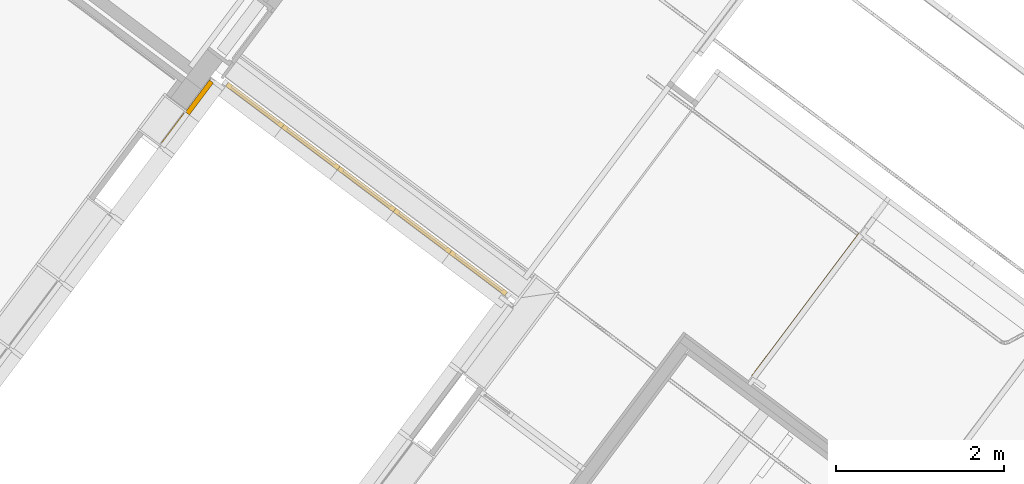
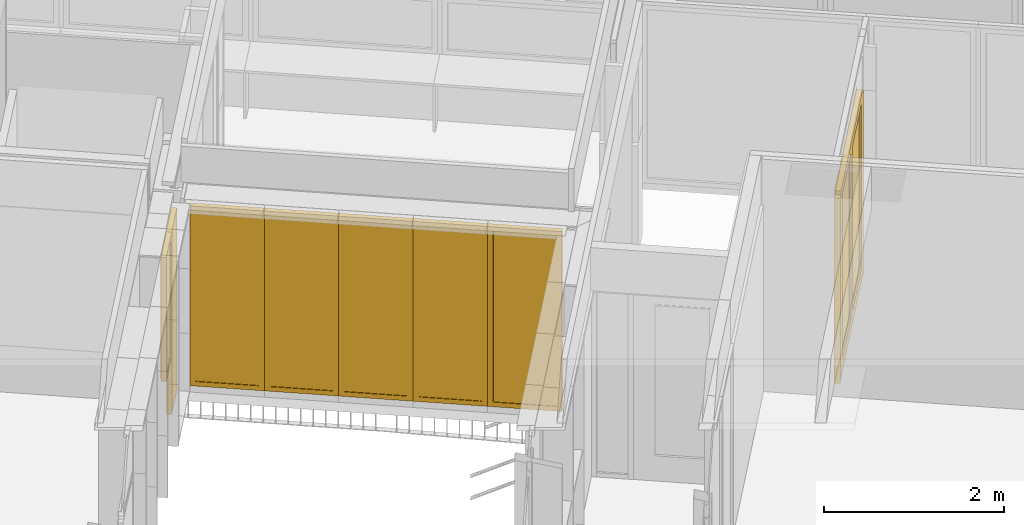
# One storey, part 210 of 243: 6 windows, 2 doors, 3 elements without a shape of their own.
"""IFC2X3 building model written with IfcOpenShell, lengths in metres."""

import ifcopenshell
import ifcopenshell.guid

model = None  # the IFC model being written
_history = None  # IfcOwnerHistory: only IFC2X3 demands one
_inside = {}  # id of a spatial element -> (the spatial element, [elements in it])
_under = {}  # id of a project, library or spatial element -> (it, [spatial elements below it])
_declared = {}  # id of a project -> (the project, [libraries it declares])
_typed = {}  # id of a type object -> (the type object, [elements of that type])
_made_of = {}  # id of a material, layer set ... -> (it, [elements and type objects made of it])


def new_model(schema):
    """Start an empty IFC model of exactly this schema.

    Asked for "IFC4X3", IfcOpenShell would pick the latest addendum, in which some entities
    have other attributes; the version numbers below select the first issue.
    IFC2X3 requires an IfcOwnerHistory on every rooted entity: one is made here for all.
    """
    global model, _history
    if schema == "IFC4X3":
        model = ifcopenshell.file(schema_version=(4, 3, 0, 0))
    else:
        model = ifcopenshell.file(schema=schema)
    _inside.clear()
    _under.clear()
    _declared.clear()
    _typed.clear()
    _made_of.clear()
    _history = None
    if model.schema == "IFC2X3":
        org = make("IfcOrganization", Name="unknown")
        user = make(
            "IfcPersonAndOrganization",
            ThePerson=make("IfcPerson", FamilyName="unknown"),
            TheOrganization=org,
        )
        app = make(
            "IfcApplication",
            ApplicationDeveloper=org,
            Version="unknown",
            ApplicationFullName="unknown",
            ApplicationIdentifier="unknown",
        )
        _history = make(
            "IfcOwnerHistory",
            OwningUser=user,
            OwningApplication=app,
            ChangeAction="ADDED",
            CreationDate=0,
        )
    return model


def make(cls, **values):
    """One entity of the class cls with the attributes given. An attribute that is None is left unset."""
    return model.create_entity(
        cls, **{name: value for name, value in values.items() if value is not None}
    )


def entity(cls, *values):
    """Any entity or typed value of the class cls, its attributes in the order of the schema. None: left unset."""
    e = model.create_entity(cls)
    for i, value in enumerate(values):
        if value is not None:
            e[i] = value
    return e


def rooted(cls, **values):
    """An entity with a GlobalId (a new one), such as an element, a storey or a relation."""
    return make(cls, GlobalId=ifcopenshell.guid.new(), OwnerHistory=_history, **values)


def si_unit(unit_type, name, prefix=None):
    """IfcSIUnit, for example si_unit("LENGTHUNIT", "METRE", prefix="MILLI")."""
    return make("IfcSIUnit", UnitType=unit_type, Prefix=prefix, Name=name)


def converted_unit(unit_type, name, factor, base, dimensions=None, offset=None):
    """IfcConversionBasedUnit, such as the inch: factor (a typed value) times the base unit."""
    return make(
        "IfcConversionBasedUnit"
        if offset is None
        else "IfcConversionBasedUnitWithOffset",
        ConversionOffset=offset,
        Dimensions=None
        if dimensions is None
        else entity("IfcDimensionalExponents", *dimensions),
        UnitType=unit_type,
        Name=name,
        ConversionFactor=make(
            "IfcMeasureWithUnit", ValueComponent=factor, UnitComponent=base
        ),
    )


def derived_unit(unit_type, elements):
    """IfcDerivedUnit: a product of units, each with its exponent."""
    return make(
        "IfcDerivedUnit",
        Elements=[
            make("IfcDerivedUnitElement", Unit=unit, Exponent=power)
            for unit, power in elements
        ],
        UnitType=unit_type,
    )


def assignment(units):
    """IfcUnitAssignment: the units of a project."""
    return None if units is None else make("IfcUnitAssignment", Units=units)


def point(xyz):
    """IfcCartesianPoint."""
    return None if xyz is None else make("IfcCartesianPoint", Coordinates=xyz)


def direction(xyz):
    """IfcDirection."""
    return None if xyz is None else make("IfcDirection", DirectionRatios=xyz)


def frame(location, z_axis=None, x_axis=None):
    """IfcAxis2Placement3D, a coordinate frame: its origin and axes. An axis left out is left unset."""
    return make(
        "IfcAxis2Placement3D",
        Location=point(location),
        Axis=direction(z_axis),
        RefDirection=direction(x_axis),
    )


def frame_2d(location, x_axis=None):
    """IfcAxis2Placement2D, a coordinate frame in the plane: its origin and x axis."""
    return make(
        "IfcAxis2Placement2D", Location=point(location), RefDirection=direction(x_axis)
    )


def origin():
    """The frame at (0, 0, 0) with its axes left unset."""
    return frame((0.0, 0.0, 0.0))


def origin_2d_with_axis():
    """The frame at (0, 0) in the plane with the x axis (1, 0) written out."""
    return frame_2d((0.0, 0.0), x_axis=(1.0, 0.0))


def place(relative_to, where):
    """IfcLocalPlacement: puts the frame where relative to a parent placement (None: the world)."""
    return make(
        "IfcLocalPlacement", PlacementRelTo=relative_to, RelativePlacement=where
    )


def context(
    kind, dimensions, precision=None, world=None, true_north=None, identifier=None
):
    """IfcGeometricRepresentationContext, for example the 3D "Model" context."""
    return make(
        "IfcGeometricRepresentationContext",
        ContextIdentifier=identifier,
        ContextType=kind,
        CoordinateSpaceDimension=dimensions,
        Precision=precision,
        WorldCoordinateSystem=world,
        TrueNorth=true_north,
    )


def subcontext(parent, identifier, kind, view, scale=None):
    """IfcGeometricRepresentationSubContext, for example "Body" below "Model"."""
    return make(
        "IfcGeometricRepresentationSubContext",
        ContextIdentifier=identifier,
        ContextType=kind,
        ParentContext=parent,
        TargetScale=scale,
        TargetView=view,
    )


def project(units=None, contexts=None):
    """IfcProject with its units and contexts."""
    return rooted(
        "IfcProject",
        Name="project",
        RepresentationContexts=contexts,
        UnitsInContext=assignment(units),
    )


def spatial(cls, under=None, at=None, **own):
    """A site, building, storey or space (cls), placed at a placement, below another one or the project."""
    s = rooted(cls, ObjectPlacement=at, **own)
    if under is not None:
        _under.setdefault(under.id(), (under, []))[1].append(s)
    return s


def profile(cls, at=None, kind="AREA", **sizes):
    """A parametric profile (cls). Its sizes go by their IFC names, for example OverallWidth=200.0."""
    return make(cls, ProfileType=kind, Position=at, **sizes)


def rectangle(**sizes):
    """IfcRectangleProfileDef."""
    return profile("IfcRectangleProfileDef", **sizes)


def extrude(swept, where, along, depth):
    """IfcExtrudedAreaSolid: the profile swept, set in the frame where, extruded along a direction by depth."""
    return make(
        "IfcExtrudedAreaSolid",
        SweptArea=swept,
        Position=where,
        ExtrudedDirection=direction(along),
        Depth=depth,
    )


def faces_of(points, faces, orient=None, outer=None):
    """IfcFace entities. A face is a list of loops; a loop is a list of indices into points, from 0.

    orient and outer hold one flag for each loop. By default every Orientation is true, the
    first loop of a face is its IfcFaceOuterBound and the others are IfcFaceBound.
    """
    made = []
    for i, loops in enumerate(faces):
        bounds = []
        for j, loop in enumerate(loops):
            is_outer = j == 0 if outer is None else outer[i][j]
            bounds.append(
                make(
                    "IfcFaceOuterBound" if is_outer else "IfcFaceBound",
                    Bound=make("IfcPolyLoop", Polygon=[points[k] for k in loop]),
                    Orientation=True if orient is None else orient[i][j],
                )
            )
        made.append(make("IfcFace", Bounds=bounds))
    return made


def faceted_brep(points, faces, orient=None, outer=None, voids=None):
    """IfcFacetedBrep: a solid bounded by flat faces; with voids (closed shells), ...WithVoids."""
    shared = [point(p) for p in points]
    hull = make("IfcClosedShell", CfsFaces=faces_of(shared, faces, orient, outer))
    if voids is None:
        return make("IfcFacetedBrep", Outer=hull)
    return make(
        "IfcFacetedBrepWithVoids",
        Outer=hull,
        Voids=[
            make(cls, CfsFaces=faces_of(shared, fs, o, b)) for cls, fs, o, b in voids
        ],
    )


def shape(context_of_items, identifier, shape_type, items):
    """IfcShapeRepresentation: the items that make up one representation, for example the "Body"."""
    return make(
        "IfcShapeRepresentation",
        ContextOfItems=context_of_items,
        RepresentationIdentifier=identifier,
        RepresentationType=shape_type,
        Items=items,
    )


def source(mapping_origin, context_of_items, identifier, shape_type, items):
    """IfcRepresentationMap: a shape defined once, which mapped items show again and again."""
    return make(
        "IfcRepresentationMap",
        MappingOrigin=mapping_origin,
        MappedRepresentation=shape(context_of_items, identifier, shape_type, items),
    )


def transform(
    local_origin,
    x_axis=None,
    y_axis=None,
    z_axis=None,
    scale=None,
    scale2=None,
    scale3=None,
    uniform=True,
):
    """IfcCartesianTransformationOperator3D, or its non-uniform kind. x_axis, y_axis, z_axis: its Axis1, 2, 3."""
    if uniform:
        return make(
            "IfcCartesianTransformationOperator3D",
            Axis1=direction(x_axis),
            Axis2=direction(y_axis),
            LocalOrigin=point(local_origin),
            Scale=scale,
            Axis3=direction(z_axis),
        )
    return make(
        "IfcCartesianTransformationOperator3DnonUniform",
        Axis1=direction(x_axis),
        Axis2=direction(y_axis),
        LocalOrigin=point(local_origin),
        Scale=scale,
        Axis3=direction(z_axis),
        Scale2=scale2,
        Scale3=scale3,
    )


def mapped(mapping_source, mapping_target):
    """IfcMappedItem: shows the shape of a source again, moved by a transform."""
    return make(
        "IfcMappedItem", MappingSource=mapping_source, MappingTarget=mapping_target
    )


def material(Name=None, Category=None):
    """IfcMaterial."""
    return make("IfcMaterial", Name=Name, Category=Category)


def material_list(materials):
    """IfcMaterialList."""
    return make("IfcMaterialList", Materials=materials)


def made_of(thing, what):
    """Note that an element or type object is made of a material, layer set ...; save() writes the relation."""
    if what is not None:
        _made_of.setdefault(what.id(), (what, []))[1].append(thing)
    return thing


def type_object(cls, material=None, **own):
    """A type object (cls), such as IfcWallType, which elements share."""
    return made_of(rooted(cls, **own), material)


def type_shapes(of_type, sources):
    """Give a type object the sources (RepresentationMaps) that its elements show as mapped items."""
    of_type.RepresentationMaps = sources


def element(
    cls,
    number,
    at=None,
    inside=None,
    cuts=None,
    type_object=None,
    material=None,
    context=None,
    identifier="Body",
    shape_type=None,
    held_by="IfcProductDefinitionShape",
    body=None,
    shapes=None,
    **own,
):
    """One element of the class cls, such as IfcWall. Its Tag is "e" and its number.

    at: its placement. inside: the storey or other place that contains it. cuts: it is an
    opening in that element (IfcRelVoidsElement). A single representation is given by context,
    identifier, shape_type and body (its items); several are given by shapes. held_by: the class
    of the entity that holds the representations. save() writes the other relations.
    """
    e = rooted(cls, Tag="e%d" % number, ObjectPlacement=at, **own)
    if body is not None:
        shapes = [shape(context, identifier, shape_type, body)]
    if shapes is not None:
        e.Representation = make(held_by, Representations=shapes)
    if inside is not None:
        _inside.setdefault(inside.id(), (inside, []))[1].append(e)
    if cuts is not None:
        rooted(
            "IfcRelVoidsElement", RelatingBuildingElement=cuts, RelatedOpeningElement=e
        )
    if type_object is not None:
        _typed.setdefault(type_object.id(), (type_object, []))[1].append(e)
    return made_of(e, material)


def aggregate(whole, parts):
    """IfcRelAggregates: a whole, such as a stair, and the parts it consists of."""
    return rooted("IfcRelAggregates", RelatingObject=whole, RelatedObjects=parts)


def save(model, path):
    """Write the relations noted so far, then the file.

    IfcRelAggregates (storeys below a building ...), IfcRelContainedInSpatialStructure (elements
    in a storey), IfcRelDefinesByType, IfcRelAssociatesMaterial and IfcRelDeclares: one each for
    every whole, place, type object, material and project.
    """
    for whole, parts in _under.values():
        aggregate(whole, parts)
    for where, things in _inside.values():
        rooted(
            "IfcRelContainedInSpatialStructure",
            RelatedElements=things,
            RelatingStructure=where,
        )
    for kind, things in _typed.values():
        rooted("IfcRelDefinesByType", RelatedObjects=things, RelatingType=kind)
    for what, things in _made_of.values():
        rooted("IfcRelAssociatesMaterial", RelatedObjects=things, RelatingMaterial=what)
    for by, libraries in _declared.values():
        rooted("IfcRelDeclares", RelatingContext=by, RelatedDefinitions=libraries)
    model.write(path)


model = new_model("IFC2X3")

# Units and contexts
model_context = context("Model", 3, precision=1e-05, world=origin(), true_north=direction((6.123031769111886e-17, 1.0)))
body_context = subcontext(model_context, "Body", "Model", "MODEL_VIEW")
ifc_project = project(units=[si_unit("LENGTHUNIT", "METRE"), si_unit("AREAUNIT", "SQUARE_METRE"), si_unit("VOLUMEUNIT", "CUBIC_METRE"), converted_unit("PLANEANGLEUNIT", "DEGREE", entity("IfcRatioMeasure", 0.017453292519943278), si_unit("PLANEANGLEUNIT", "RADIAN"), dimensions=[0, 0, 0, 0, 0, 0, 0]), si_unit("MASSUNIT", "GRAM", prefix="KILO"), derived_unit("MASSDENSITYUNIT", [(si_unit("MASSUNIT", "GRAM", prefix="KILO"), 1), (si_unit("LENGTHUNIT", "METRE"), -3)]), derived_unit("IONCONCENTRATIONUNIT", [(si_unit("MASSUNIT", "GRAM", prefix="KILO"), 1), (si_unit("LENGTHUNIT", "METRE"), -3)]), derived_unit("MOMENTOFINERTIAUNIT", [(si_unit("LENGTHUNIT", "METRE"), 4)]), si_unit("TIMEUNIT", "SECOND"), si_unit("FREQUENCYUNIT", "HERTZ"), si_unit("THERMODYNAMICTEMPERATUREUNIT", "DEGREE_CELSIUS"), derived_unit("THERMALTRANSMITTANCEUNIT", [(si_unit("MASSUNIT", "GRAM", prefix="KILO"), 1), (si_unit("THERMODYNAMICTEMPERATUREUNIT", "KELVIN"), -1), (si_unit("TIMEUNIT", "SECOND"), -3)]), derived_unit("THERMALCONDUCTANCEUNIT", [(si_unit("MASSUNIT", "GRAM", prefix="KILO"), 1), (si_unit("THERMODYNAMICTEMPERATUREUNIT", "KELVIN"), -1), (si_unit("TIMEUNIT", "SECOND"), -3), (si_unit("LENGTHUNIT", "METRE"), 1)]), derived_unit("VOLUMETRICFLOWRATEUNIT", [(si_unit("LENGTHUNIT", "METRE"), 3), (si_unit("TIMEUNIT", "SECOND"), -1)]), derived_unit("MASSFLOWRATEUNIT", [(si_unit("MASSUNIT", "GRAM", prefix="KILO"), 1), (si_unit("TIMEUNIT", "SECOND"), -1)]), derived_unit("ROTATIONALFREQUENCYUNIT", [(si_unit("TIMEUNIT", "SECOND"), -1)]), si_unit("ELECTRICCURRENTUNIT", "AMPERE"), si_unit("ELECTRICVOLTAGEUNIT", "VOLT"), si_unit("POWERUNIT", "WATT"), si_unit("FORCEUNIT", "NEWTON", prefix="KILO"), si_unit("ILLUMINANCEUNIT", "LUX"), si_unit("LUMINOUSFLUXUNIT", "LUMEN"), si_unit("LUMINOUSINTENSITYUNIT", "CANDELA"), derived_unit("USERDEFINED", [(si_unit("MASSUNIT", "GRAM", prefix="KILO"), -1), (si_unit("LENGTHUNIT", "METRE"), -2), (si_unit("TIMEUNIT", "SECOND"), 3), (si_unit("LUMINOUSFLUXUNIT", "LUMEN"), 1)]), derived_unit("USERDEFINED", [(si_unit("MASSUNIT", "GRAM", prefix="KILO"), 1), (si_unit("TIMEUNIT", "SECOND"), -3), (si_unit("LENGTHUNIT", "METRE"), 3), (si_unit("ELECTRICCURRENTUNIT", "AMPERE"), -2)]), derived_unit("SOUNDPOWERUNIT", [(si_unit("MASSUNIT", "GRAM", prefix="KILO"), 1), (si_unit("TIMEUNIT", "SECOND"), -3), (si_unit("LENGTHUNIT", "METRE"), 2)]), derived_unit("SOUNDPRESSUREUNIT", [(si_unit("MASSUNIT", "GRAM", prefix="KILO"), 1), (si_unit("LENGTHUNIT", "METRE"), -1), (si_unit("TIMEUNIT", "SECOND"), -2)]), derived_unit("LINEARVELOCITYUNIT", [(si_unit("LENGTHUNIT", "METRE"), 1), (si_unit("TIMEUNIT", "SECOND"), -1)]), si_unit("PRESSUREUNIT", "PASCAL"), derived_unit("USERDEFINED", [(si_unit("MASSUNIT", "GRAM", prefix="KILO"), 1), (si_unit("LENGTHUNIT", "METRE"), -2), (si_unit("TIMEUNIT", "SECOND"), -2)]), derived_unit("LINEARFORCEUNIT", [(si_unit("MASSUNIT", "GRAM", prefix="KILO"), 1), (si_unit("TIMEUNIT", "SECOND"), -2)]), derived_unit("PLANARFORCEUNIT", [(si_unit("MASSUNIT", "GRAM", prefix="KILO"), 1), (si_unit("LENGTHUNIT", "METRE"), -1), (si_unit("TIMEUNIT", "SECOND"), -2)]), derived_unit("SPECIFICHEATCAPACITYUNIT", [(si_unit("THERMODYNAMICTEMPERATUREUNIT", "KELVIN"), -1), (si_unit("LENGTHUNIT", "METRE"), 2), (si_unit("TIMEUNIT", "SECOND"), -2)]), derived_unit("HEATINGVALUEUNIT", [(si_unit("LENGTHUNIT", "METRE"), 2), (si_unit("TIMEUNIT", "SECOND"), -2)]), derived_unit("VAPORPERMEABILITYUNIT", [(si_unit("LENGTHUNIT", "METRE"), -1), (si_unit("TIMEUNIT", "SECOND"), 1)]), derived_unit("DYNAMICVISCOSITYUNIT", [(si_unit("MASSUNIT", "GRAM", prefix="KILO"), 1), (si_unit("TIMEUNIT", "SECOND"), -1), (si_unit("LENGTHUNIT", "METRE"), -1)]), derived_unit("THERMALEXPANSIONCOEFFICIENTUNIT", [(si_unit("THERMODYNAMICTEMPERATUREUNIT", "KELVIN"), -1)]), derived_unit("MODULUSOFELASTICITYUNIT", [(si_unit("MASSUNIT", "GRAM", prefix="KILO"), 1), (si_unit("LENGTHUNIT", "METRE"), -1), (si_unit("TIMEUNIT", "SECOND"), -2)]), derived_unit("ISOTHERMALMOISTURECAPACITYUNIT", [(si_unit("LENGTHUNIT", "METRE"), 3), (si_unit("MASSUNIT", "GRAM", prefix="KILO"), -1)]), derived_unit("MOISTUREDIFFUSIVITYUNIT", [(si_unit("TIMEUNIT", "SECOND"), -1), (si_unit("LENGTHUNIT", "METRE"), 2)])], contexts=[model_context])

# Site, building, storey
site_placement = place(None, frame((0.0, 0.0, 235.0), z_axis=(0.0, 0.0, 1.0), x_axis=(-0.7996477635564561, 0.6004693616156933, 0.0)))
site = spatial("IfcSite", under=ifc_project, at=site_placement, Name="Default", CompositionType="ELEMENT")
building_placement = place(site_placement, origin())
building = spatial("IfcBuilding", under=site, at=building_placement, CompositionType="ELEMENT")
storey_placement = place(building_placement, origin())
storey = spatial("IfcBuildingStorey", under=building, at=storey_placement, Name="P0- Escola", CompositionType="ELEMENT", Elevation=0.0)

# Curtain wall, door, window
curtain_wall_type_1 = type_object("IfcCurtainWallType", Name="Muro cortina:MC- EXT- MC2", PredefinedType="NOTDEFINED")
curtain_wall_1_placement = place(storey_placement, origin())
curtain_wall_1 = element("IfcCurtainWall", 1, at=curtain_wall_1_placement, inside=storey, type_object=curtain_wall_type_1, Name="Muro cortina:MC- EXT- MC2", ObjectType="Muro cortina:MC- EXT- MC2")
ifc_material_1 = material(Name="_Alumini- T1- Perfil")
ifc_material_2 = material(Name="_Aillament")
ifc_material_list_1 = material_list([ifc_material_1, ifc_material_2])
door_style_1 = type_object("IfcDoorStyle", Name="MC- Alu- panell especific xapa:MC- Alu- panell especific xapa", ConstructionType="NOTDEFINED", OperationType="NOTDEFINED", ParameterTakesPrecedence=False, Sizeable=False, material=ifc_material_list_1)
shared_shape_1 = source(origin(), body_context, "Body", "SweptSolid", [
    extrude(rectangle(XDim=0.005999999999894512, YDim=0.47694997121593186, at=origin_2d_with_axis()), frame((0.0, -0.057000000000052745, 0.0), z_axis=(0.0, 0.0, 1.0), x_axis=(0.0, -1.0, 0.0)), (0.0, 0.0, 1.0), 2.471449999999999),
    extrude(rectangle(XDim=0.4769499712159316, YDim=0.048000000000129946, at=origin_2d_with_axis()), frame((0.0, -0.030000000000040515, 0.0)), (0.0, 0.0, 1.0), 2.471449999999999),
    extrude(rectangle(XDim=0.005999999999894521, YDim=0.47694997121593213, at=origin_2d_with_axis()), frame((0.0, -0.003000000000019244, 0.0), z_axis=(0.0, 0.0, 1.0), x_axis=(0.0, -1.0, 0.0)), (0.0, 0.0, 1.0), 2.471449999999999),
])
type_shapes(door_style_1, [shared_shape_1])
door_1_placement = place(curtain_wall_1_placement, frame((41.04514768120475, -36.16166496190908, 0.03229999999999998), z_axis=(0.0, 0.0, 1.0), x_axis=(0.0, 1.0, 0.0)))
door_1 = element("IfcDoor", 2, at=door_1_placement, type_object=door_style_1, material=ifc_material_list_1, Name="MC- Alu- panell especific xapa:MC- Alu- panell especific xapa", ObjectType="MC- Alu- panell especific xapa:MC- Alu- panell especific xapa", OverallHeight=2.471449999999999, OverallWidth=0.47694997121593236, context=body_context, shape_type="MappedRepresentation", body=[
    mapped(shared_shape_1, transform((0.0, 0.0, 0.0), scale=1.0)),
])
ifc_material_3 = material(Name="_Vidre")
ifc_material_list_2 = material_list([ifc_material_3, ifc_material_1])
window_style_1 = type_object("IfcWindowStyle", Name="MC- Alu- Conjunt finestra basculant- 68x68 cm:MC- Alu- Conjunt finestra basculant- 68x68 cm", ConstructionType="NOTDEFINED", OperationType="NOTDEFINED", ParameterTakesPrecedence=False, Sizeable=False, material=ifc_material_list_2)
shared_shape_2 = source(origin(), body_context, "Body", "Brep", [
    faceted_brep([(0.194410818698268, -0.03559830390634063, 0.051999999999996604), (-0.19441081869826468, -0.03559830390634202, 0.051999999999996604), (-0.1944108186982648, -0.011598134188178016, 0.051999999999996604), (0.19441081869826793, -0.011598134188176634, 0.051999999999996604), (0.194410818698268, -0.03559830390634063, 1.631552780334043), (0.19441081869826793, -0.011598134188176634, 1.631552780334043), (-0.19441081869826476, -0.011598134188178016, 1.631552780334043), (-0.19441081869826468, -0.03559830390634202, 1.631552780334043)], [[[0, 1, 2, 3]], [[4, 0, 3, 5]], [[5, 3, 2, 6]], [[6, 2, 1, 7]], [[7, 1, 0, 4]], [[4, 5, 6, 7]]]),
    faceted_brep([(-0.1787099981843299, -0.009998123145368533, 1.6158519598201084), (-0.17870999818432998, -0.009998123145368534, 0.06789804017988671), (-0.17870999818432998, -0.007998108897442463, 0.06789804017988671), (-0.17870999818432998, -0.007998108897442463, 1.6158519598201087), (-0.2076080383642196, -0.007998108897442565, 1.6447499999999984), (0.2076080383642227, -0.00799810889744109, 1.6447499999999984), (0.2076080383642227, -0.00799810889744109, 0.03899999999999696), (-0.2076080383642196, -0.007998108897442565, 0.03899999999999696), (0.17870999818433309, -0.007998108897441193, 1.6158519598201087), (0.17870999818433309, -0.007998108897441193, 0.06789804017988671), (0.17870999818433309, -0.009998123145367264, 0.06789804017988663), (0.17870999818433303, -0.009998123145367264, 1.6158519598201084), (0.1944108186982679, -0.009998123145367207, 1.6315527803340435), (-0.1944108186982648, -0.00999812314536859, 1.6315527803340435), (-0.1944108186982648, -0.00999812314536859, 0.05219721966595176), (0.1944108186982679, -0.009998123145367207, 0.05219721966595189), (-0.1944108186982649, -0.04079986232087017, 1.6315527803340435), (-0.19441081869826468, -0.04079986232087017, 0.05219721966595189), (0.19441081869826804, -0.04079986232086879, 0.05219721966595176), (0.1944108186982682, -0.04079986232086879, 1.6315527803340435), (0.1787099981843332, -0.040799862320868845, 1.6158519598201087), (-0.17870999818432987, -0.040799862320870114, 1.6158519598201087), (-0.17870999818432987, -0.040799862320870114, 0.06789804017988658), (0.1787099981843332, -0.040799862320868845, 0.06789804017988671), (-0.17870999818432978, -0.0680000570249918, 1.6158519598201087), (-0.17870999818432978, -0.0680000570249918, 0.06789804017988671), (0.17870999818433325, -0.06800005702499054, 0.06789804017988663), (0.17870999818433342, -0.06800005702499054, 1.6158519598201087), (0.225112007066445, -0.06800005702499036, 1.6622539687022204), (-0.22511200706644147, -0.06800005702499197, 1.6622539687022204), (-0.22511200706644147, -0.06800005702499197, 0.021496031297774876), (0.225112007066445, -0.06800005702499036, 0.021496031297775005), (-0.22511200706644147, -0.06450003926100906, 1.6622539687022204), (-0.22511200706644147, -0.06450003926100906, 0.021496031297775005), (0.225112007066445, -0.06450003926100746, 0.021496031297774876), (0.225112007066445, -0.06450003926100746, 1.6622539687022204), (0.2076080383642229, -0.06450003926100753, 1.6447499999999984), (-0.2076080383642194, -0.064500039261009, 1.6447499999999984), (-0.2076080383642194, -0.064500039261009, 0.03899999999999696), (0.2076080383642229, -0.06450003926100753, 0.03899999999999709)], [[[0, 1, 2, 3]], [[4, 5, 6, 7], [8, 3, 2, 9]], [[1, 10, 9, 2]], [[0, 11, 10, 1], [12, 13, 14, 15]], [[16, 17, 14, 13]], [[17, 18, 15, 14]], [[16, 19, 18, 17], [20, 21, 22, 23]], [[24, 25, 22, 21]], [[25, 26, 23, 22]], [[24, 27, 26, 25], [28, 29, 30, 31]], [[32, 33, 30, 29]], [[33, 34, 31, 30]], [[32, 35, 34, 33], [36, 37, 38, 39]], [[4, 7, 38, 37]], [[7, 6, 39, 38]], [[10, 11, 8, 9]], [[18, 19, 12, 15]], [[26, 27, 20, 23]], [[34, 35, 28, 31]], [[6, 5, 36, 39]], [[11, 0, 3, 8]], [[19, 16, 13, 12]], [[27, 24, 21, 20]], [[35, 32, 29, 28]], [[5, 4, 37, 36]]], outer=[[True], [True, False], [True], [False, True], [True], [True], [True, False], [True], [True], [False, True], [True], [True], [True, False], [True], [True], [True], [True], [True], [True], [True], [True], [True], [True], [True], [True]]),
    faceted_brep([(0.18369229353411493, 0.0, 1.62094318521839), (0.18369229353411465, 0.0, 0.06280681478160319), (0.18369229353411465, -0.0040000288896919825, 0.06280681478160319), (0.18369229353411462, -0.0040000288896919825, 1.6209431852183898), (-0.1836922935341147, -0.0040000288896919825, 1.6209431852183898), (-0.18369229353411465, -0.0040000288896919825, 0.06280681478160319), (0.21909891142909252, -0.0040000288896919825, 1.6563498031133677), (-0.21909891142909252, -0.0040000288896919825, 1.6563498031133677), (-0.21909891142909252, -0.0040000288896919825, 0.027400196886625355), (0.21909891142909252, -0.0040000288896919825, 0.027400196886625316), (-0.18369229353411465, 0.0, 0.06280681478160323), (-0.18369229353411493, 0.0, 1.62094318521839), (-0.24649910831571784, 0.0, 1.683749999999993), (0.24649910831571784, 0.0, 1.683749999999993), (0.24649910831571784, 0.0, 0.0), (-0.24649910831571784, 0.0, 0.0), (0.24649910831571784, -0.05999999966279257, 1.683749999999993), (0.24649910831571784, -0.05999999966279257, 0.0), (-0.24649910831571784, -0.05999999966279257, 0.0), (-0.24649910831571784, -0.05999999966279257, 1.683749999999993), (-0.2190989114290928, -0.05999999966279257, 1.6563498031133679), (0.2190989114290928, -0.05999999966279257, 1.6563498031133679), (0.2190989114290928, -0.05999999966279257, 0.02740019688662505), (-0.2190989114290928, -0.05999999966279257, 0.027400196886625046)], [[[0, 1, 2, 3]], [[4, 3, 2, 5], [6, 7, 8, 9]], [[1, 10, 5, 2]], [[0, 11, 10, 1], [12, 13, 14, 15]], [[16, 17, 14, 13]], [[17, 18, 15, 14]], [[16, 19, 18, 17], [20, 21, 22, 23]], [[6, 9, 22, 21]], [[9, 8, 23, 22]], [[10, 11, 4, 5]], [[18, 19, 12, 15]], [[8, 7, 20, 23]], [[11, 0, 3, 4]], [[19, 16, 13, 12]], [[7, 6, 21, 20]]], outer=[[True], [False, True], [True], [False, True], [True], [True], [True, False], [True], [True], [True], [True], [True], [True], [True], [True]]),
])
type_shapes(window_style_1, [shared_shape_2])
window_1_placement = place(curtain_wall_1_placement, frame((41.04514768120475, -35.6766908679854, 0.8200000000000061), z_axis=(0.0, 0.0, 1.0), x_axis=(0.0, 1.0, 0.0)))
window_1 = element("IfcWindow", 3, at=window_1_placement, type_object=window_style_1, material=ifc_material_list_2, Name="MC- Alu- Conjunt finestra basculant- 68x68 cm:MC- Alu- Conjunt finestra basculant- 68x68 cm", ObjectType="MC- Alu- Conjunt finestra basculant- 68x68 cm:MC- Alu- Conjunt finestra basculant- 68x68 cm", OverallHeight=1.683749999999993, OverallWidth=0.49299821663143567, context=body_context, shape_type="MappedRepresentation", body=[
    mapped(shared_shape_2, transform((0.0, 0.0, 0.0), scale=1.0)),
])
aggregate(curtain_wall_1, [door_1, window_1])

# Curtain wall, door
curtain_wall_type_2 = type_object("IfcCurtainWallType", PredefinedType="NOTDEFINED")
curtain_wall_2_placement = place(storey_placement, origin())
curtain_wall_2 = element("IfcCurtainWall", 4, at=curtain_wall_2_placement, inside=storey, type_object=curtain_wall_type_2)
ifc_material_list_3 = material_list([ifc_material_1, ifc_material_3])
door_style_2 = type_object("IfcDoorStyle", Name="MC- Alu- Conjunt doble porta- 70x60 cm- +15cm- obertura int:MC- Alu- Conjunt doble porta- 70x60 cm- +15cm- obertura int", ConstructionType="NOTDEFINED", OperationType="NOTDEFINED", ParameterTakesPrecedence=False, Sizeable=False, material=ifc_material_list_3)
shared_shape_3 = source(origin(), body_context, "Body", "Brep", [
    faceted_brep([(-0.9924499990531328, 0.0, 0.02400000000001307), (0.0, 0.0, 0.02400000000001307), (0.0, -0.0656997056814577, 0.02400000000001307), (-0.9924499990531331, -0.06569970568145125, 0.02400000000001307), (-0.992449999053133, -0.06569970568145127, 2.560300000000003), (-0.9924499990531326, 0.0, 2.560300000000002), (0.0, -0.06569970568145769, 2.560300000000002), (0.0, -0.06569970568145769, 0.0), (-1.0164499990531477, -0.06569970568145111, 0.0), (-1.0164499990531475, -0.0656997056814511, 2.5843000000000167), (0.0, -0.06569970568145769, 2.5843000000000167), (0.0, -0.06999970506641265, 2.5843000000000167), (0.0, -0.06999970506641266, 0.0), (0.0, 0.0, 2.560300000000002), (-0.8908499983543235, 0.0, 2.458699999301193), (-0.8908499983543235, 0.0, 0.2036000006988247), (-0.07659999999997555, 0.0, 0.20360000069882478), (-0.07659999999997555, 0.0, 2.458699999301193), (-0.0765999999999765, -0.06449970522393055, 2.458699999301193), (-0.0765999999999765, -0.06449970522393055, 0.20360000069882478), (-0.07659999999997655, -0.06999970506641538, 0.20360000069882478), (-0.07659999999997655, -0.06999970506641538, 2.458699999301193), (-0.8908499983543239, -0.06999970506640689, 0.20360000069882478), (-0.8908499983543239, -0.06999970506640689, 2.458699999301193), (-1.016449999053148, -0.06999970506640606, 2.584300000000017), (-1.016449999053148, -0.06999970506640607, 0.0), (-0.8908499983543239, -0.06449970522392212, 0.2036000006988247), (-0.8908499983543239, -0.06449970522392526, 2.458699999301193), (-0.05159999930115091, -0.0644997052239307, 2.483700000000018), (-0.05159999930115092, -0.0644997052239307, 0.17859999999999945), (-0.9158499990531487, -0.06449970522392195, 0.17859999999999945), (-0.9158499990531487, -0.0644997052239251, 2.483700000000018), (-0.9158499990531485, -0.018999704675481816, 0.17859999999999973), (-0.9158499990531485, -0.018999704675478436, 2.483700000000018), (-0.051599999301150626, -0.018999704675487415, 0.17859999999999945), (-0.05159999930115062, -0.018999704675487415, 2.483700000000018), (-0.07659999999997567, -0.018999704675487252, 2.458699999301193), (-0.07659999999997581, -0.018999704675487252, 0.20360000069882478), (-0.8908499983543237, -0.0189997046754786, 0.20360000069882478), (-0.8908499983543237, -0.0189997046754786, 2.458699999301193)], [[[0, 1, 2, 3]], [[4, 5, 0, 3]], [[6, 4, 3, 2, 7, 8, 9, 10]], [[10, 11, 12, 7, 2, 1, 13, 6]], [[13, 1, 0, 5], [14, 15, 16, 17]], [[18, 19, 20, 21]], [[21, 20, 22, 23], [24, 25, 12, 11]], [[26, 22, 20, 19]], [[27, 26, 19, 18], [28, 29, 30, 31]], [[23, 22, 26, 27]], [[31, 30, 32, 33]], [[34, 32, 30, 29]], [[35, 34, 29, 28]], [[33, 32, 34, 35], [36, 37, 38, 39]], [[39, 38, 15, 14]], [[15, 38, 37, 16]], [[17, 16, 37, 36]], [[8, 7, 12, 25]], [[9, 8, 25, 24]], [[4, 6, 13, 5]], [[10, 9, 24, 11]], [[27, 18, 21, 23]], [[33, 35, 28, 31]], [[14, 17, 36, 39]]], outer=[[True], [True], [True], [True], [True, False], [True], [False, True], [True], [False, True], [True], [True], [True], [True], [True, False], [True], [True], [True], [True], [True], [True], [True], [True], [True], [True]]),
    faceted_brep([(0.9924499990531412, -0.06569970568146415, 0.024000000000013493), (0.0, -0.0656997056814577, 0.024000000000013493), (0.0, 0.0, 0.024000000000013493), (0.9924499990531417, 0.0, 0.024000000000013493), (1.0164499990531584, -0.0656997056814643, 0.0), (0.0, -0.0656997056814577, 0.0), (0.9924499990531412, -0.06569970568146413, 2.5603000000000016), (0.0, -0.0656997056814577, 2.5603000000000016), (0.0, -0.0656997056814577, 2.5843000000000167), (1.0164499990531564, -0.0656997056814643, 2.5843000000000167), (0.9924499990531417, 0.0, 2.5603000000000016), (0.0, 0.0, 2.5603000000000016), (0.07659999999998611, 0.0, 2.458699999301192), (0.07659999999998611, 0.0, 0.20360000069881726), (0.8908499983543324, 0.0, 0.2036000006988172), (0.8908499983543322, 0.0, 2.458699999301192), (0.0, -0.06999970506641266, 0.0), (0.0, -0.06999970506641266, 2.5843000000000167), (0.8908499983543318, -0.06999970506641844, 2.458699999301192), (0.890849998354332, -0.06999970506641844, 0.20360000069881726), (0.07659999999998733, -0.06999970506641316, 0.2036000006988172), (0.07659999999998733, -0.06999970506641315, 2.458699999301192), (1.0164499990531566, -0.06999970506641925, 0.0), (1.0164499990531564, -0.06999970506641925, 2.5843000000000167), (0.8908499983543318, -0.06449970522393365, 2.458699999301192), (0.890849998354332, -0.06449970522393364, 0.20360000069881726), (0.0765999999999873, -0.0644997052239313, 0.2036000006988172), (0.9158499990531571, -0.06449970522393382, 2.4837000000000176), (0.9158499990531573, -0.0644997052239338, 0.17859999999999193), (0.05159999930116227, -0.06449970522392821, 0.17859999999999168), (0.05159999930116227, -0.06449970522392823, 2.483700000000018), (0.0765999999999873, -0.06449970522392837, 2.458699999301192), (0.9158499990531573, -0.01899970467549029, 2.4837000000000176), (0.9158499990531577, -0.01899970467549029, 0.17859999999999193), (0.890849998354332, -0.018999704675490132, 2.458699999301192), (0.8908499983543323, -0.018999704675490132, 0.20360000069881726), (0.07659999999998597, -0.018999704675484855, 0.20360000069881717), (0.07659999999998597, -0.018999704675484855, 2.458699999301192), (0.05159999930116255, -0.01899970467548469, 2.483700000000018), (0.05159999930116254, -0.01899970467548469, 0.17859999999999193)], [[[0, 1, 2, 3]], [[4, 5, 1, 0, 6, 7, 8, 9]], [[3, 10, 6, 0]], [[10, 3, 2, 11], [12, 13, 14, 15]], [[8, 7, 11, 2, 1, 5, 16, 17]], [[18, 19, 20, 21], [16, 22, 23, 17]], [[23, 22, 4, 9]], [[24, 25, 19, 18]], [[19, 25, 26, 20]], [[27, 28, 29, 30], [31, 26, 25, 24]], [[32, 33, 28, 27]], [[34, 35, 36, 37], [38, 39, 33, 32]], [[33, 39, 29, 28]], [[15, 14, 35, 34]], [[35, 14, 13, 36]], [[21, 20, 26, 31]], [[30, 29, 39, 38]], [[37, 36, 13, 12]], [[9, 8, 17, 23]], [[18, 21, 31, 24]], [[27, 30, 38, 32]], [[34, 37, 12, 15]], [[10, 11, 7, 6]], [[5, 4, 22, 16]]], outer=[[True], [True], [True], [True, False], [True], [False, True], [True], [True], [True], [True, False], [True], [False, True], [True], [True], [True], [True], [True], [True], [True], [True], [True], [True], [True], [True]]),
    faceted_brep([(0.0515999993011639, -0.06089980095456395, 0.17859999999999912), (0.051599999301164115, -0.02889980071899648, 0.17859999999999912), (0.9158499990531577, -0.02889980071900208, 0.17859999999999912), (0.9158499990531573, -0.06089980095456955, 0.17859999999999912), (0.0515999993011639, -0.06089980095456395, 2.5087000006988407), (0.9158499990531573, -0.06089980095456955, 2.5087000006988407), (0.9158499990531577, -0.02889980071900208, 2.5087000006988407), (0.051599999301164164, -0.02889980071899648, 2.5087000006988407)], [[[0, 1, 2, 3]], [[4, 0, 3, 5]], [[5, 3, 2, 6]], [[6, 2, 1, 7]], [[7, 1, 0, 4]], [[4, 5, 6, 7]]]),
    faceted_brep([(-0.05159999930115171, -0.06089980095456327, 0.17859999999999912), (-0.9158499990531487, -0.06089980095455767, 0.17859999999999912), (-0.9158499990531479, -0.028899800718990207, 0.17859999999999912), (-0.05159999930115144, -0.028899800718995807, 0.17859999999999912), (-0.0515999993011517, -0.06089980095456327, 2.5087000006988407), (-0.05159999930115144, -0.028899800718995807, 2.5087000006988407), (-0.9158499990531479, -0.028899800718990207, 2.5087000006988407), (-0.9158499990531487, -0.06089980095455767, 2.5087000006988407)], [[[0, 1, 2, 3]], [[4, 0, 3, 5]], [[5, 3, 2, 6]], [[6, 2, 1, 7]], [[7, 1, 0, 4]], [[4, 5, 6, 7]]]),
    faceted_brep([(1.0657499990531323, -0.06999999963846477, 0.0), (1.0244499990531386, -0.0699999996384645, 0.0), (1.0244499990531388, -0.059699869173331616, 0.0), (1.0139499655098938, -0.059699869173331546, 0.0), (1.013949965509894, -0.008800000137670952, 0.0), (0.9984499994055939, -0.00880000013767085, 0.0), (0.998449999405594, 0.0, 0.0), (1.0657499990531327, 0.0, 0.0), (1.0657499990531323, -0.06999999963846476, 2.5050000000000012), (-1.065749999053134, -0.06999999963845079, 2.5050000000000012), (-1.0657499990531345, -0.06999999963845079, 0.0), (-1.0244499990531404, -0.0699999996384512, 0.0), (-1.0244499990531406, -0.06999999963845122, 2.4637000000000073), (1.0244499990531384, -0.06999999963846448, 2.4637000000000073), (1.024449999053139, -0.05969986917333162, 2.4637000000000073), (-1.0244499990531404, -0.05969986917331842, 2.4637000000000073), (-1.0244499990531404, -0.05969986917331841, 0.0), (-1.0139499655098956, -0.05969986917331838, 0.0), (-1.0139499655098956, -0.05969986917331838, 2.4531999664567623), (1.0139499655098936, -0.05969986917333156, 2.4531999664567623), (1.0139499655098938, -0.008800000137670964, 2.4531999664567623), (-1.0139499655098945, -0.008800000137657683, 2.4531999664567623), (-1.013949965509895, -0.008800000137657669, 0.0), (-0.9984499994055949, -0.008800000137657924, 0.0), (-0.9984499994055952, -0.008800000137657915, 2.4377000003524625), (0.9984499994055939, -0.008800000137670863, 2.4377000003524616), (0.9984499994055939, 0.0, 2.4377000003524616), (-0.9984499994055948, 0.0, 2.437700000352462), (-0.9984499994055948, 0.0, 0.0), (-1.0657499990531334, 0.0, 0.0), (-1.0657499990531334, 0.0, 2.505000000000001), (1.0657499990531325, 0.0, 2.5050000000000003)], [[[0, 1, 2, 3, 4, 5, 6, 7]], [[1, 0, 8, 9, 10, 11, 12, 13]], [[2, 1, 13, 14]], [[3, 2, 14, 15, 16, 17, 18, 19]], [[4, 3, 19, 20]], [[5, 4, 20, 21, 22, 23, 24, 25]], [[6, 5, 25, 26]], [[7, 6, 26, 27, 28, 29, 30, 31]], [[0, 7, 31, 8]], [[10, 29, 28, 23, 22, 17, 16, 11]], [[9, 30, 29, 10]], [[27, 24, 23, 28]], [[21, 18, 17, 22]], [[15, 12, 11, 16]], [[8, 31, 30, 9]], [[26, 25, 24, 27]], [[20, 19, 18, 21]], [[14, 13, 12, 15]]]),
])
type_shapes(door_style_2, [shared_shape_3])
door_2_placement = place(curtain_wall_2_placement, frame((33.75114768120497, -38.523191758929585, 0.0), z_axis=(0.0, 0.0, 1.0), x_axis=(0.0, 1.0, 0.0)))
door_2 = element("IfcDoor", 5, at=door_2_placement, type_object=door_style_2, material=ifc_material_list_3, Name="MC- Alu- Conjunt doble porta- 70x60 cm- +15cm- obertura int:MC- Alu- Conjunt doble porta- 70x60 cm- +15cm- obertura int", ObjectType="MC- Alu- Conjunt doble porta- 70x60 cm- +15cm- obertura int:MC- Alu- Conjunt doble porta- 70x60 cm- +15cm- obertura int", OverallHeight=2.58430000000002, OverallWidth=2.1314999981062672, context=body_context, shape_type="MappedRepresentation", body=[
    mapped(shared_shape_3, transform((0.0, 0.0, 0.0), scale=1.0)),
])
aggregate(curtain_wall_2, [door_2])

# Curtain wall, windows
curtain_wall_type_3 = type_object("IfcCurtainWallType", PredefinedType="NOTDEFINED")
curtain_wall_3_placement = place(storey_placement, origin())
curtain_wall_3 = element("IfcCurtainWall", 6, at=curtain_wall_3_placement, inside=storey, type_object=curtain_wall_type_3)
window_style_2 = type_object("IfcWindowStyle", Name="MC- Alu- Conjunt vidre fix- 62x60 cm:MC- Alu- Conjunt vidre fix- 62x60 cm", ConstructionType="NOTDEFINED", OperationType="NOTDEFINED", ParameterTakesPrecedence=False, Sizeable=False, material=ifc_material_list_2)
shared_shape_4 = source(origin(), body_context, "Body", "Brep", [
    faceted_brep([(-0.367593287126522, -0.007600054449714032, 0.048806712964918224), (0.36759328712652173, -0.007600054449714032, 0.048806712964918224), (0.36759328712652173, -0.03160022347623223, 0.048806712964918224), (-0.367593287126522, -0.03160022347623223, 0.048806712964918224), (-0.367593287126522, -0.007600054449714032, 2.389749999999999), (0.36759328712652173, -0.007600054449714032, 2.389749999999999), (0.36759328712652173, -0.03160022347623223, 2.389749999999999), (-0.367593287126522, -0.03160022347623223, 2.389749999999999)], [[[0, 1, 2, 3]], [[4, 5, 1, 0]], [[5, 6, 2, 1]], [[6, 7, 3, 2]], [[7, 4, 0, 3]], [[4, 7, 6, 5]]]),
    faceted_brep([(-0.4164000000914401, -0.05999999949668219, 2.438749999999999), (-0.4164000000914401, 0.0, 2.438749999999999), (-0.4164000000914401, 0.0, 0.0), (-0.41640000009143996, -0.05999999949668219, 0.0), (-0.3535931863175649, 0.0, 2.3759431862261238), (-0.3535931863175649, 0.0, 0.06280681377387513), (0.353593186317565, 0.0, 0.06280681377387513), (0.35359318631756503, 0.0, 2.3759431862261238), (0.4164000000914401, 0.0, 2.438749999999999), (0.4164000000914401, 0.0, 0.0), (0.41640000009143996, -0.05999999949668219, 0.0), (0.4164000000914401, -0.05999999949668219, 2.438749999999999), (0.35359603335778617, -0.05999999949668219, 2.3759460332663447), (0.3535960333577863, -0.05999999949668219, 0.06280396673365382), (-0.3535960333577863, -0.05999999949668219, 0.06280396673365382), (-0.3535960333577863, -0.05999999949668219, 2.375946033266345), (-0.3535960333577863, -0.03160022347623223, 2.375946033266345), (-0.3535960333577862, -0.03160022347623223, 0.06280396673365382), (0.3535960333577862, -0.03160022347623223, 0.0628039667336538), (0.3535960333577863, -0.03160022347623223, 2.375946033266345), (0.36759328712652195, -0.03160022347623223, 2.3899432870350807), (0.36759328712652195, -0.03160022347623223, 0.048806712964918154), (-0.36759328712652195, -0.03160022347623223, 0.04880671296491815), (-0.36759328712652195, -0.03160022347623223, 2.3899432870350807), (-0.36759328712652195, -0.007600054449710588, 2.3899432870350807), (-0.36759328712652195, -0.007600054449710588, 0.04880671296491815), (0.36759328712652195, -0.007600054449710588, 0.048806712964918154), (0.36759328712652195, -0.007600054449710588, 2.3899432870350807), (0.353593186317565, -0.007600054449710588, 2.3759431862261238), (0.353593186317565, -0.007600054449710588, 0.06280681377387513), (-0.353593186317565, -0.007600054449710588, 0.06280681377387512), (-0.35359318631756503, -0.007600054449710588, 2.3759431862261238)], [[[0, 1, 2, 3]], [[4, 5, 6, 7], [8, 9, 2, 1]], [[3, 2, 9, 10]], [[0, 3, 10, 11], [12, 13, 14, 15]], [[16, 15, 14, 17]], [[17, 14, 13, 18]], [[16, 17, 18, 19], [20, 21, 22, 23]], [[24, 23, 22, 25]], [[25, 22, 21, 26]], [[24, 25, 26, 27], [28, 29, 30, 31]], [[4, 31, 30, 5]], [[5, 30, 29, 6]], [[10, 9, 8, 11]], [[18, 13, 12, 19]], [[26, 21, 20, 27]], [[6, 29, 28, 7]], [[11, 8, 1, 0]], [[19, 12, 15, 16]], [[27, 20, 23, 24]], [[7, 28, 31, 4]]], outer=[[True], [False, True], [True], [True, False], [True], [True], [False, True], [True], [True], [True, False], [True], [True], [True], [True], [True], [True], [True], [True], [True], [True]]),
])
type_shapes(window_style_2, [shared_shape_4])
window_2_placement = place(curtain_wall_3_placement, frame((37.15954768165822, -36.45518994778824, 0.06499999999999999)))
window_2 = element("IfcWindow", 7, at=window_2_placement, type_object=window_style_2, material=ifc_material_list_2, Name="MC- Alu- Conjunt vidre fix- 62x60 cm:MC- Alu- Conjunt vidre fix- 62x60 cm", ObjectType="MC- Alu- Conjunt vidre fix- 62x60 cm:MC- Alu- Conjunt vidre fix- 62x60 cm", OverallHeight=2.438749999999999, OverallWidth=0.8328000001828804, context=body_context, shape_type="MappedRepresentation", body=[
    mapped(shared_shape_4, transform((0.0, 0.0, 0.0), scale=1.0)),
])
window_3_placement = place(curtain_wall_3_placement, frame((37.9923476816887, -36.45518994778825, 0.06499999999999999)))
window_3 = element("IfcWindow", 8, at=window_3_placement, type_object=window_style_2, material=ifc_material_list_2, Name="MC- Alu- Conjunt vidre fix- 62x60 cm:MC- Alu- Conjunt vidre fix- 62x60 cm", ObjectType="MC- Alu- Conjunt vidre fix- 62x60 cm:MC- Alu- Conjunt vidre fix- 62x60 cm", OverallHeight=2.438749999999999, OverallWidth=0.8328000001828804, context=body_context, shape_type="MappedRepresentation", body=[
    mapped(shared_shape_4, transform((0.0, 0.0, 0.0), scale=1.0)),
])
window_4_placement = place(curtain_wall_3_placement, frame((38.82514768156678, -36.45518994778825, 0.06499999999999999)))
window_4 = element("IfcWindow", 9, at=window_4_placement, type_object=window_style_2, material=ifc_material_list_2, Name="MC- Alu- Conjunt vidre fix- 62x60 cm:MC- Alu- Conjunt vidre fix- 62x60 cm", ObjectType="MC- Alu- Conjunt vidre fix- 62x60 cm:MC- Alu- Conjunt vidre fix- 62x60 cm", OverallHeight=2.438749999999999, OverallWidth=0.8328000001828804, context=body_context, shape_type="MappedRepresentation", body=[
    mapped(shared_shape_4, transform((0.0, 0.0, 0.0), scale=1.0)),
])
window_5_placement = place(curtain_wall_3_placement, frame((39.65794768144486, -36.455189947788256, 0.06499999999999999)))
window_5 = element("IfcWindow", 10, at=window_5_placement, type_object=window_style_2, material=ifc_material_list_2, Name="MC- Alu- Conjunt vidre fix- 62x60 cm:MC- Alu- Conjunt vidre fix- 62x60 cm", ObjectType="MC- Alu- Conjunt vidre fix- 62x60 cm:MC- Alu- Conjunt vidre fix- 62x60 cm", OverallHeight=2.438749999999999, OverallWidth=0.8328000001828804, context=body_context, shape_type="MappedRepresentation", body=[
    mapped(shared_shape_4, transform((0.0, 0.0, 0.0), scale=1.0)),
])
window_6_placement = place(curtain_wall_3_placement, frame((40.49074768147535, -36.455189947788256, 0.06499999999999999)))
window_6 = element("IfcWindow", 11, at=window_6_placement, type_object=window_style_2, material=ifc_material_list_2, Name="MC- Alu- Conjunt vidre fix- 62x60 cm:MC- Alu- Conjunt vidre fix- 62x60 cm", ObjectType="MC- Alu- Conjunt vidre fix- 62x60 cm:MC- Alu- Conjunt vidre fix- 62x60 cm", OverallHeight=2.438749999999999, OverallWidth=0.8328000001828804, context=body_context, shape_type="MappedRepresentation", body=[
    mapped(shared_shape_4, transform((0.0, 0.0, 0.0), scale=1.0)),
])
aggregate(curtain_wall_3, [window_2, window_3, window_4, window_5, window_6])

save(model, "model.ifc")
